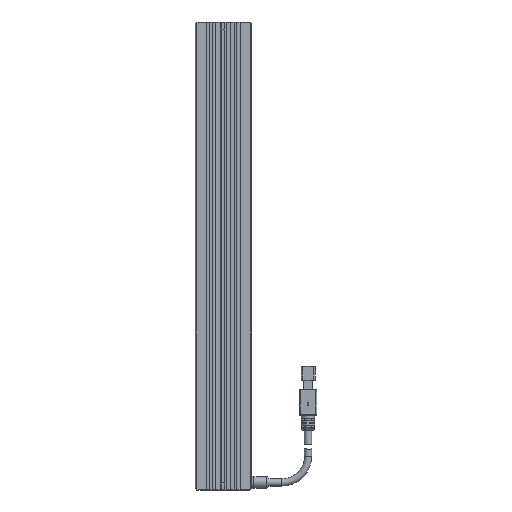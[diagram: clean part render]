
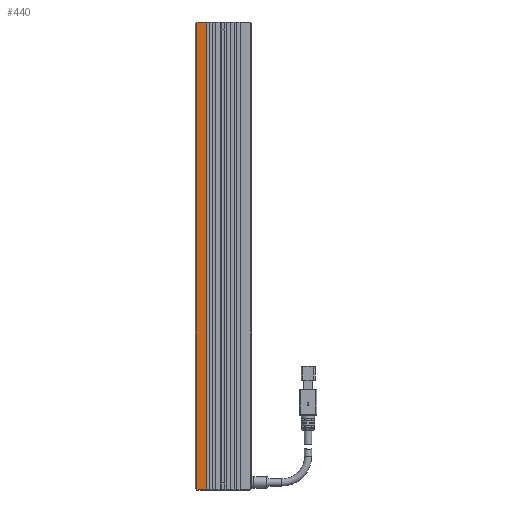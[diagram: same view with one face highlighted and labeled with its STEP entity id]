
A CAD part, top view. The second image highlights one B-rep face of the part: STEP entity #440.
In plain terms, the highlighted planar face has unit normal (0, 0, 1).
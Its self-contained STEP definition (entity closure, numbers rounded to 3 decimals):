
#126 = CARTESIAN_POINT ( 'NONE',  ( -15., 134., 12.5 ) ) ;
#330 = DIRECTION ( 'NONE',  ( -1., 0., 0. ) ) ;
#440 = ADVANCED_FACE ( 'NONE', ( #12541 ), #6397, .F. ) ;
#1077 = CARTESIAN_POINT ( 'NONE',  ( -9.7, 134., 12.5 ) ) ;
#1924 = CARTESIAN_POINT ( 'NONE',  ( -15., 134., 12.5 ) ) ;
#1940 = CARTESIAN_POINT ( 'NONE',  ( -15.5, 134., 12.5 ) ) ;
#2803 = DIRECTION ( 'NONE',  ( 0., -1., 0. ) ) ;
#2839 = EDGE_CURVE ( 'NONE', #17565, #10164, #9731, .T. ) ;
#3066 = CARTESIAN_POINT ( 'NONE',  ( -15.5, 133.5, 12.5 ) ) ;
#3187 = CARTESIAN_POINT ( 'NONE',  ( -15.5, -134., 12.5 ) ) ;
#3314 = VERTEX_POINT ( 'NONE', #126 ) ;
#3373 = VERTEX_POINT ( 'NONE', #3066 ) ;
#3445 = EDGE_CURVE ( 'NONE', #3314, #3373, #14444, .T. ) ;
#4346 = DIRECTION ( 'NONE',  ( 0.707, -0.707, 0. ) ) ;
#4497 = CARTESIAN_POINT ( 'NONE',  ( -9.7, 134., 12.5 ) ) ;
#4583 = DIRECTION ( 'NONE',  ( 1., 0., 0. ) ) ;
#5979 = DIRECTION ( 'NONE',  ( 0., -1., 0. ) ) ;
#6397 = PLANE ( 'NONE',  #12003 ) ;
#6842 = ORIENTED_EDGE ( 'NONE', *, *, #12740, .T. ) ;
#7085 = CARTESIAN_POINT ( 'NONE',  ( -9.7, -134., 12.5 ) ) ;
#7775 = EDGE_LOOP ( 'NONE', ( #8852, #11004, #12801, #6842, #12171, #16297 ) ) ;
#8322 = EDGE_CURVE ( 'NONE', #3314, #16602, #8986, .T. ) ;
#8852 = ORIENTED_EDGE ( 'NONE', *, *, #8322, .F. ) ;
#8986 = LINE ( 'NONE', #14908, #15775 ) ;
#9731 = LINE ( 'NONE', #3187, #16972 ) ;
#9858 = LINE ( 'NONE', #4497, #11426 ) ;
#10164 = VERTEX_POINT ( 'NONE', #7085 ) ;
#10639 = DIRECTION ( 'NONE',  ( 0., 0., -1. ) ) ;
#10858 = VERTEX_POINT ( 'NONE', #14241 ) ;
#11004 = ORIENTED_EDGE ( 'NONE', *, *, #3445, .T. ) ;
#11426 = VECTOR ( 'NONE', #5979, 1000. ) ;
#11651 = CARTESIAN_POINT ( 'NONE',  ( -16., -133., 12.5 ) ) ;
#11899 = EDGE_CURVE ( 'NONE', #16602, #10164, #9858, .T. ) ;
#12003 = AXIS2_PLACEMENT_3D ( 'NONE', #1940, #10639, #330 ) ;
#12171 = ORIENTED_EDGE ( 'NONE', *, *, #2839, .T. ) ;
#12533 = VECTOR ( 'NONE', #4346, 1000. ) ;
#12541 = FACE_OUTER_BOUND ( 'NONE', #7775, .T. ) ;
#12740 = EDGE_CURVE ( 'NONE', #10858, #17565, #18441, .T. ) ;
#12801 = ORIENTED_EDGE ( 'NONE', *, *, #14151, .T. ) ;
#13767 = VECTOR ( 'NONE', #18034, 1000. ) ;
#14045 = LINE ( 'NONE', #18868, #17695 ) ;
#14151 = EDGE_CURVE ( 'NONE', #3373, #10858, #14045, .T. ) ;
#14241 = CARTESIAN_POINT ( 'NONE',  ( -15.5, -133.5, 12.5 ) ) ;
#14444 = LINE ( 'NONE', #1924, #13767 ) ;
#14908 = CARTESIAN_POINT ( 'NONE',  ( -15.5, 134., 12.5 ) ) ;
#15775 = VECTOR ( 'NONE', #18052, 1000. ) ;
#16038 = CARTESIAN_POINT ( 'NONE',  ( -15., -134., 12.5 ) ) ;
#16297 = ORIENTED_EDGE ( 'NONE', *, *, #11899, .F. ) ;
#16602 = VERTEX_POINT ( 'NONE', #1077 ) ;
#16972 = VECTOR ( 'NONE', #4583, 1000. ) ;
#17565 = VERTEX_POINT ( 'NONE', #16038 ) ;
#17695 = VECTOR ( 'NONE', #2803, 1000. ) ;
#18034 = DIRECTION ( 'NONE',  ( -0.707, -0.707, 0. ) ) ;
#18052 = DIRECTION ( 'NONE',  ( 1., 0., 0. ) ) ;
#18441 = LINE ( 'NONE', #11651, #12533 ) ;
#18868 = CARTESIAN_POINT ( 'NONE',  ( -15.5, 134., 12.5 ) ) ;
